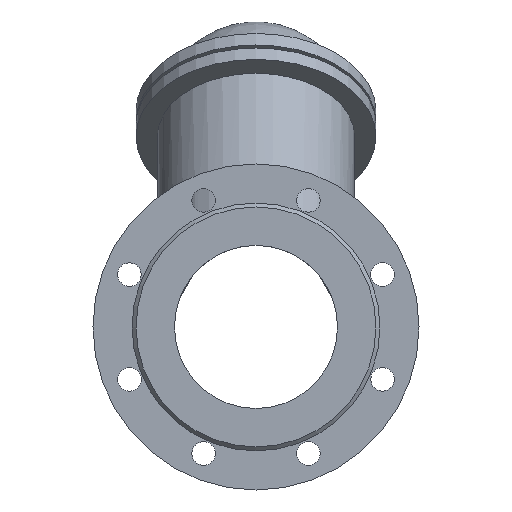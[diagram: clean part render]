
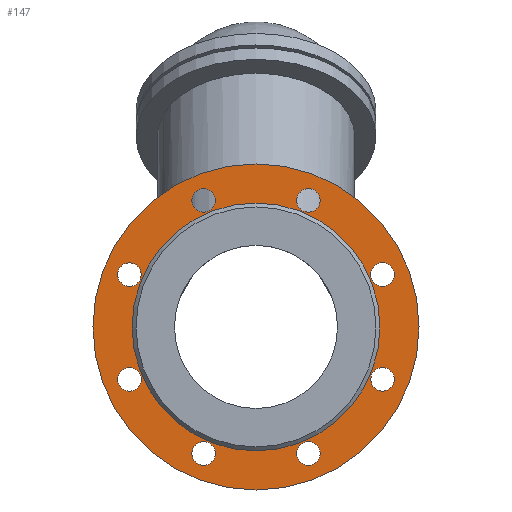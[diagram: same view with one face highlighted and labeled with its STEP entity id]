
A CAD part, front view. The second image highlights one B-rep face of the part: STEP entity #147.
In plain terms, the highlighted planar face has unit normal (0, -1, 0).
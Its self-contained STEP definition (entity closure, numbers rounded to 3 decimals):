
#147=ADVANCED_FACE('',(#553,#555,#557,#559,#561,#563,#565,#567,#569,#571),#573,.T.);
#553=FACE_BOUND('',#554,.T.);
#554=EDGE_LOOP('',(#946));
#555=FACE_BOUND('',#556,.T.);
#556=EDGE_LOOP('',(#947));
#557=FACE_BOUND('',#558,.T.);
#558=EDGE_LOOP('',(#948));
#559=FACE_BOUND('',#560,.T.);
#560=EDGE_LOOP('',(#949));
#561=FACE_BOUND('',#562,.T.);
#562=EDGE_LOOP('',(#950));
#563=FACE_BOUND('',#564,.T.);
#564=EDGE_LOOP('',(#951));
#565=FACE_BOUND('',#566,.T.);
#566=EDGE_LOOP('',(#952));
#567=FACE_BOUND('',#568,.T.);
#568=EDGE_LOOP('',(#953));
#569=FACE_BOUND('',#570,.T.);
#570=EDGE_LOOP('',(#954));
#571=FACE_BOUND('',#572,.T.);
#572=EDGE_LOOP('',(#955));
#573=PLANE('',#574);
#574=AXIS2_PLACEMENT_3D('',#575,#576,#577);
#575=CARTESIAN_POINT('',(0.,-172.,0.));
#576=DIRECTION('',(0.,-1.,0.));
#577=DIRECTION('',(0.,0.,1.));
#946=ORIENTED_EDGE('',*,*,#1072,.F.);
#947=ORIENTED_EDGE('',*,*,#1073,.T.);
#948=ORIENTED_EDGE('',*,*,#1074,.T.);
#949=ORIENTED_EDGE('',*,*,#1075,.T.);
#950=ORIENTED_EDGE('',*,*,#1076,.T.);
#951=ORIENTED_EDGE('',*,*,#1077,.T.);
#952=ORIENTED_EDGE('',*,*,#1078,.T.);
#953=ORIENTED_EDGE('',*,*,#1079,.T.);
#954=ORIENTED_EDGE('',*,*,#1062,.T.);
#955=ORIENTED_EDGE('',*,*,#1080,.T.);
#1062=EDGE_CURVE('',#1152,#1152,#1153,.T.);
#1072=EDGE_CURVE('',#1172,#1172,#1173,.T.);
#1073=EDGE_CURVE('',#1174,#1174,#1175,.F.);
#1074=EDGE_CURVE('',#1176,#1176,#1177,.F.);
#1075=EDGE_CURVE('',#1178,#1178,#1179,.F.);
#1076=EDGE_CURVE('',#1180,#1180,#1181,.F.);
#1077=EDGE_CURVE('',#1182,#1182,#1183,.F.);
#1078=EDGE_CURVE('',#1184,#1184,#1185,.F.);
#1079=EDGE_CURVE('',#1186,#1186,#1187,.F.);
#1080=EDGE_CURVE('',#1188,#1188,#1189,.F.);
#1152=VERTEX_POINT('',#1508);
#1153=CIRCLE('',#1509,95.);
#1172=VERTEX_POINT('',#1558);
#1173=CIRCLE('',#1559,125.);
#1174=VERTEX_POINT('',#1563);
#1175=CIRCLE('',#1564,9.);
#1176=VERTEX_POINT('',#1568);
#1177=CIRCLE('',#1569,9.);
#1178=VERTEX_POINT('',#1573);
#1179=CIRCLE('',#1574,9.);
#1180=VERTEX_POINT('',#1578);
#1181=CIRCLE('',#1579,9.);
#1182=VERTEX_POINT('',#1583);
#1183=CIRCLE('',#1584,9.);
#1184=VERTEX_POINT('',#1588);
#1185=CIRCLE('',#1589,9.);
#1186=VERTEX_POINT('',#1593);
#1187=CIRCLE('',#1594,9.);
#1188=VERTEX_POINT('',#1598);
#1189=CIRCLE('',#1599,9.);
#1508=CARTESIAN_POINT('',(0.,-172.,95.));
#1509=AXIS2_PLACEMENT_3D('',#1510,#1511,#1512);
#1510=CARTESIAN_POINT('',(0.,-172.,0.));
#1511=DIRECTION('',(0.,1.,0.));
#1512=DIRECTION('',(0.,0.,1.));
#1558=CARTESIAN_POINT('',(0.,-172.,125.));
#1559=AXIS2_PLACEMENT_3D('',#1560,#1561,#1562);
#1560=CARTESIAN_POINT('',(0.,-172.,0.));
#1561=DIRECTION('',(0.,1.,0.));
#1562=DIRECTION('',(0.,0.,1.));
#1563=CARTESIAN_POINT('',(46.546,-172.,90.643));
#1564=AXIS2_PLACEMENT_3D('',#1565,#1566,#1567);
#1565=CARTESIAN_POINT('',(40.182,-172.,97.007));
#1566=DIRECTION('',(0.,-1.,0.));
#1567=DIRECTION('',(0.707,0.,-0.707));
#1568=CARTESIAN_POINT('',(97.007,-172.,31.182));
#1569=AXIS2_PLACEMENT_3D('',#1570,#1571,#1572);
#1570=CARTESIAN_POINT('',(97.007,-172.,40.182));
#1571=DIRECTION('',(0.,-1.,0.));
#1572=DIRECTION('',(0.,0.,-1.));
#1573=CARTESIAN_POINT('',(90.643,-172.,-46.546));
#1574=AXIS2_PLACEMENT_3D('',#1575,#1576,#1577);
#1575=CARTESIAN_POINT('',(97.007,-172.,-40.182));
#1576=DIRECTION('',(0.,-1.,0.));
#1577=DIRECTION('',(-0.707,0.,-0.707));
#1578=CARTESIAN_POINT('',(31.182,-172.,-97.007));
#1579=AXIS2_PLACEMENT_3D('',#1580,#1581,#1582);
#1580=CARTESIAN_POINT('',(40.182,-172.,-97.007));
#1581=DIRECTION('',(0.,-1.,0.));
#1582=DIRECTION('',(-1.,0.,0.));
#1583=CARTESIAN_POINT('',(-46.546,-172.,-90.643));
#1584=AXIS2_PLACEMENT_3D('',#1585,#1586,#1587);
#1585=CARTESIAN_POINT('',(-40.182,-172.,-97.007));
#1586=DIRECTION('',(0.,-1.,0.));
#1587=DIRECTION('',(-0.707,0.,0.707));
#1588=CARTESIAN_POINT('',(-97.007,-172.,-31.182));
#1589=AXIS2_PLACEMENT_3D('',#1590,#1591,#1592);
#1590=CARTESIAN_POINT('',(-97.007,-172.,-40.182));
#1591=DIRECTION('',(0.,-1.,0.));
#1592=DIRECTION('',(0.,0.,1.));
#1593=CARTESIAN_POINT('',(-90.643,-172.,46.546));
#1594=AXIS2_PLACEMENT_3D('',#1595,#1596,#1597);
#1595=CARTESIAN_POINT('',(-97.007,-172.,40.182));
#1596=DIRECTION('',(0.,-1.,0.));
#1597=DIRECTION('',(0.707,0.,0.707));
#1598=CARTESIAN_POINT('',(-31.182,-172.,97.007));
#1599=AXIS2_PLACEMENT_3D('',#1600,#1601,#1602);
#1600=CARTESIAN_POINT('',(-40.182,-172.,97.007));
#1601=DIRECTION('',(0.,-1.,0.));
#1602=DIRECTION('',(1.,0.,0.));
